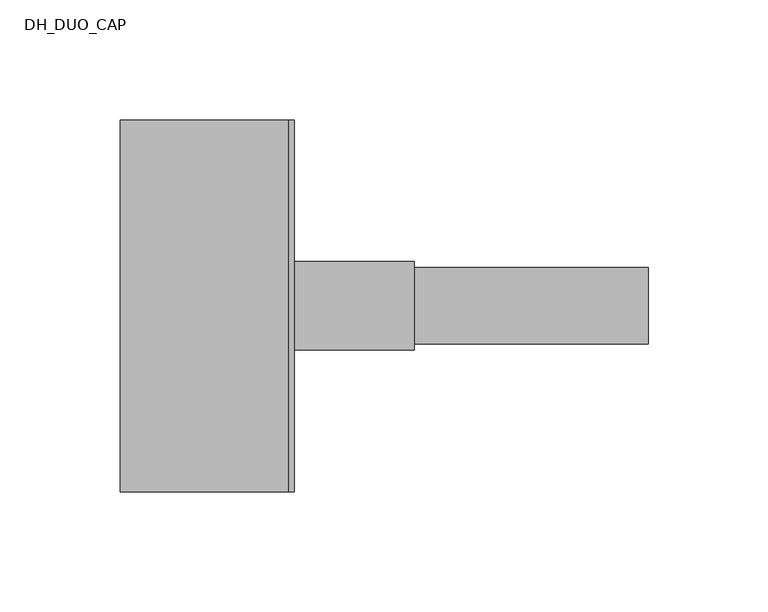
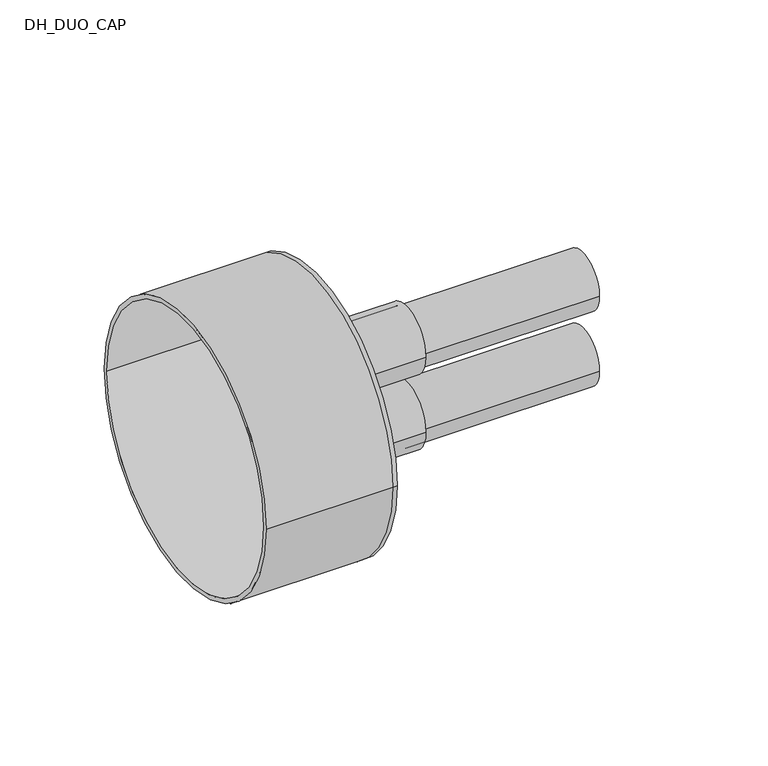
"""IFC4 building model written with IfcOpenShell, lengths in millimetres: pipe fitting geometry, DH_DUO_CAP : RAUVITHERM DUO 11 Heating - Rubber Cap."""

import ifcopenshell
import ifcopenshell.guid

model = None  # the IFC model being written
_history = None  # IfcOwnerHistory: only IFC2X3 demands one
_inside = {}  # id of a spatial element -> (the spatial element, [elements in it])
_under = {}  # id of a project, library or spatial element -> (it, [spatial elements below it])
_declared = {}  # id of a project -> (the project, [libraries it declares])
_typed = {}  # id of a type object -> (the type object, [elements of that type])
_made_of = {}  # id of a material, layer set ... -> (it, [elements and type objects made of it])


def new_model(schema):
    """Start an empty IFC model of exactly this schema.

    Asked for "IFC4X3", IfcOpenShell would pick the latest addendum, in which some entities
    have other attributes; the version numbers below select the first issue.
    IFC2X3 requires an IfcOwnerHistory on every rooted entity: one is made here for all.
    """
    global model, _history
    if schema == "IFC4X3":
        model = ifcopenshell.file(schema_version=(4, 3, 0, 0))
    else:
        model = ifcopenshell.file(schema=schema)
    _inside.clear()
    _under.clear()
    _declared.clear()
    _typed.clear()
    _made_of.clear()
    _history = None
    if model.schema == "IFC2X3":
        org = make("IfcOrganization", Name="unknown")
        user = make(
            "IfcPersonAndOrganization",
            ThePerson=make("IfcPerson", FamilyName="unknown"),
            TheOrganization=org,
        )
        app = make(
            "IfcApplication",
            ApplicationDeveloper=org,
            Version="unknown",
            ApplicationFullName="unknown",
            ApplicationIdentifier="unknown",
        )
        _history = make(
            "IfcOwnerHistory",
            OwningUser=user,
            OwningApplication=app,
            ChangeAction="ADDED",
            CreationDate=0,
        )
    return model


def make(cls, **values):
    """One entity of the class cls with the attributes given. An attribute that is None is left unset."""
    return model.create_entity(
        cls, **{name: value for name, value in values.items() if value is not None}
    )


def rooted(cls, **values):
    """An entity with a GlobalId (a new one), such as an element, a storey or a relation."""
    return make(cls, GlobalId=ifcopenshell.guid.new(), OwnerHistory=_history, **values)


def si_unit(unit_type, name, prefix=None):
    """IfcSIUnit, for example si_unit("LENGTHUNIT", "METRE", prefix="MILLI")."""
    return make("IfcSIUnit", UnitType=unit_type, Prefix=prefix, Name=name)


def assignment(units):
    """IfcUnitAssignment: the units of a project."""
    return None if units is None else make("IfcUnitAssignment", Units=units)


def point(xyz):
    """IfcCartesianPoint."""
    return None if xyz is None else make("IfcCartesianPoint", Coordinates=xyz)


def direction(xyz):
    """IfcDirection."""
    return None if xyz is None else make("IfcDirection", DirectionRatios=xyz)


def frame(location, z_axis=None, x_axis=None):
    """IfcAxis2Placement3D, a coordinate frame: its origin and axes. An axis left out is left unset."""
    return make(
        "IfcAxis2Placement3D",
        Location=point(location),
        Axis=direction(z_axis),
        RefDirection=direction(x_axis),
    )


def frame_2d(location, x_axis=None):
    """IfcAxis2Placement2D, a coordinate frame in the plane: its origin and x axis."""
    return make(
        "IfcAxis2Placement2D", Location=point(location), RefDirection=direction(x_axis)
    )


def origin():
    """The frame at (0, 0, 0) with its axes left unset."""
    return frame((0.0, 0.0, 0.0))


def place(relative_to, where):
    """IfcLocalPlacement: puts the frame where relative to a parent placement (None: the world)."""
    return make(
        "IfcLocalPlacement", PlacementRelTo=relative_to, RelativePlacement=where
    )


def context(
    kind, dimensions, precision=None, world=None, true_north=None, identifier=None
):
    """IfcGeometricRepresentationContext, for example the 3D "Model" context."""
    return make(
        "IfcGeometricRepresentationContext",
        ContextIdentifier=identifier,
        ContextType=kind,
        CoordinateSpaceDimension=dimensions,
        Precision=precision,
        WorldCoordinateSystem=world,
        TrueNorth=true_north,
    )


def project(units=None, contexts=None):
    """IfcProject with its units and contexts."""
    return rooted(
        "IfcProject",
        Name="project",
        RepresentationContexts=contexts,
        UnitsInContext=assignment(units),
    )


def spatial(cls, under=None, at=None, **own):
    """A site, building, storey or space (cls), placed at a placement, below another one or the project."""
    s = rooted(cls, ObjectPlacement=at, **own)
    if under is not None:
        _under.setdefault(under.id(), (under, []))[1].append(s)
    return s


def polyline(points):
    """IfcPolyline through the points."""
    return make("IfcPolyline", Points=[point(p) for p in points])


def circle_curve(where, radius):
    """IfcCircle in the frame where."""
    return make("IfcCircle", Position=where, Radius=radius)


def trimmed(basis, trim1, trim2, sense, master):
    """IfcTrimmedCurve: the piece of a basis curve between two trims."""
    return make(
        "IfcTrimmedCurve",
        BasisCurve=basis,
        Trim1=trim1,
        Trim2=trim2,
        SenseAgreement=sense,
        MasterRepresentation=master,
    )


def segment(curve, same_sense, transition):
    """IfcCompositeCurveSegment."""
    return make(
        "IfcCompositeCurveSegment",
        Transition=transition,
        SameSense=same_sense,
        ParentCurve=curve,
    )


def composite_curve(segments, self_intersect=None):
    """IfcCompositeCurve: segments joined end to end."""
    return make("IfcCompositeCurve", Segments=segments, SelfIntersect=self_intersect)


def outline(outer, holes=None, kind="AREA"):
    """IfcArbitraryClosedProfileDef: a profile drawn as a closed curve; with holes, ...WithVoids."""
    if holes is None:
        return make("IfcArbitraryClosedProfileDef", ProfileType=kind, OuterCurve=outer)
    return make(
        "IfcArbitraryProfileDefWithVoids",
        ProfileType=kind,
        OuterCurve=outer,
        InnerCurves=holes,
    )


def extrude(swept, where, along, depth):
    """IfcExtrudedAreaSolid: the profile swept, set in the frame where, extruded along a direction by depth."""
    return make(
        "IfcExtrudedAreaSolid",
        SweptArea=swept,
        Position=where,
        ExtrudedDirection=direction(along),
        Depth=depth,
    )


def shape(context_of_items, identifier, shape_type, items):
    """IfcShapeRepresentation: the items that make up one representation, for example the "Body"."""
    return make(
        "IfcShapeRepresentation",
        ContextOfItems=context_of_items,
        RepresentationIdentifier=identifier,
        RepresentationType=shape_type,
        Items=items,
    )


def source(mapping_origin, context_of_items, identifier, shape_type, items):
    """IfcRepresentationMap: a shape defined once, which mapped items show again and again."""
    return make(
        "IfcRepresentationMap",
        MappingOrigin=mapping_origin,
        MappedRepresentation=shape(context_of_items, identifier, shape_type, items),
    )


def transform(
    local_origin,
    x_axis=None,
    y_axis=None,
    z_axis=None,
    scale=None,
    scale2=None,
    scale3=None,
    uniform=True,
):
    """IfcCartesianTransformationOperator3D, or its non-uniform kind. x_axis, y_axis, z_axis: its Axis1, 2, 3."""
    if uniform:
        return make(
            "IfcCartesianTransformationOperator3D",
            Axis1=direction(x_axis),
            Axis2=direction(y_axis),
            LocalOrigin=point(local_origin),
            Scale=scale,
            Axis3=direction(z_axis),
        )
    return make(
        "IfcCartesianTransformationOperator3DnonUniform",
        Axis1=direction(x_axis),
        Axis2=direction(y_axis),
        LocalOrigin=point(local_origin),
        Scale=scale,
        Axis3=direction(z_axis),
        Scale2=scale2,
        Scale3=scale3,
    )


def mapped(mapping_source, mapping_target):
    """IfcMappedItem: shows the shape of a source again, moved by a transform."""
    return make(
        "IfcMappedItem", MappingSource=mapping_source, MappingTarget=mapping_target
    )


def made_of(thing, what):
    """Note that an element or type object is made of a material, layer set ...; save() writes the relation."""
    if what is not None:
        _made_of.setdefault(what.id(), (what, []))[1].append(thing)
    return thing


def element(
    cls,
    number,
    at=None,
    inside=None,
    cuts=None,
    type_object=None,
    material=None,
    context=None,
    identifier="Body",
    shape_type=None,
    held_by="IfcProductDefinitionShape",
    body=None,
    shapes=None,
    **own,
):
    """One element of the class cls, such as IfcWall. Its Tag is "e" and its number.

    at: its placement. inside: the storey or other place that contains it. cuts: it is an
    opening in that element (IfcRelVoidsElement). A single representation is given by context,
    identifier, shape_type and body (its items); several are given by shapes. held_by: the class
    of the entity that holds the representations. save() writes the other relations.
    """
    e = rooted(cls, Tag="e%d" % number, ObjectPlacement=at, **own)
    if body is not None:
        shapes = [shape(context, identifier, shape_type, body)]
    if shapes is not None:
        e.Representation = make(held_by, Representations=shapes)
    if inside is not None:
        _inside.setdefault(inside.id(), (inside, []))[1].append(e)
    if cuts is not None:
        rooted(
            "IfcRelVoidsElement", RelatingBuildingElement=cuts, RelatedOpeningElement=e
        )
    if type_object is not None:
        _typed.setdefault(type_object.id(), (type_object, []))[1].append(e)
    return made_of(e, material)


def aggregate(whole, parts):
    """IfcRelAggregates: a whole, such as a stair, and the parts it consists of."""
    return rooted("IfcRelAggregates", RelatingObject=whole, RelatedObjects=parts)


def save(model, path):
    """Write the relations noted so far, then the file.

    IfcRelAggregates (storeys below a building ...), IfcRelContainedInSpatialStructure (elements
    in a storey), IfcRelDefinesByType, IfcRelAssociatesMaterial and IfcRelDeclares: one each for
    every whole, place, type object, material and project.
    """
    for whole, parts in _under.values():
        aggregate(whole, parts)
    for where, things in _inside.values():
        rooted(
            "IfcRelContainedInSpatialStructure",
            RelatedElements=things,
            RelatingStructure=where,
        )
    for kind, things in _typed.values():
        rooted("IfcRelDefinesByType", RelatedObjects=things, RelatingType=kind)
    for what, things in _made_of.values():
        rooted("IfcRelAssociatesMaterial", RelatedObjects=things, RelatingMaterial=what)
    for by, libraries in _declared.values():
        rooted("IfcRelDeclares", RelatingContext=by, RelatedDefinitions=libraries)
    model.write(path)


def plane_surface(at):
    """IfcPlane: the flat surface through the origin of the frame at, square to its z axis."""
    return make("IfcPlane", Position=at)


def cylinder_surface(at, radius):
    """IfcCylindricalSurface: all points at the distance radius from the z axis of the frame at."""
    return make("IfcCylindricalSurface", Position=at, Radius=radius)


def revolved_surface(curve, axis_point, axis_direction):
    """IfcSurfaceOfRevolution: the curve turned about the line through axis_point along axis_direction."""
    return make(
        "IfcSurfaceOfRevolution",
        SweptCurve=make("IfcArbitraryOpenProfileDef", ProfileType="CURVE", Curve=curve),
        AxisPosition=make("IfcAxis1Placement", Location=point(axis_point), Axis=direction(axis_direction)),
    )


def advanced_brep(points, edges, surfaces, faces):
    """IfcAdvancedBrep: a solid bounded by faces that lie on surfaces and meet in shared edges.

    An edge is (start, end): straight between two places in points (the first is 0);
    or (start, end, curve); or (start, end, curve, False) where it runs against its curve.
    A face is (place in surfaces, loops), or (place, loops, False) where it looks against
    its surface's normal. A loop lists edges by number (the first is 1), with a minus sign
    where the edge is run from its end to its start. The first loop is the outer one.
    """
    corners = [point(p) for p in points]
    vertices = [make("IfcVertexPoint", VertexGeometry=c) for c in corners]
    made = []
    for start, end, *more in edges:
        made.append(
            make(
                "IfcEdgeCurve",
                EdgeStart=vertices[start],
                EdgeEnd=vertices[end],
                EdgeGeometry=more[0] if more else make("IfcPolyline", Points=[corners[start], corners[end]]),
                SameSense=more[1] if len(more) > 1 else True,
            )
        )
    hull = []
    for where, loops, *sense in faces:
        bounds = []
        for j, loop in enumerate(loops):
            ring = [make("IfcOrientedEdge", EdgeElement=made[abs(k) - 1], Orientation=k > 0) for k in loop]
            bounds.append(
                make(
                    "IfcFaceOuterBound" if j == 0 else "IfcFaceBound",
                    Bound=make("IfcEdgeLoop", EdgeList=ring),
                    Orientation=True,
                )
            )
        hull.append(make("IfcAdvancedFace", Bounds=bounds, FaceSurface=surfaces[where], SameSense=sense[0] if sense else True))
    return make("IfcAdvancedBrep", Outer=make("IfcClosedShell", CfsFaces=hull))


def dh_duo_cap_b7e61209(model_context):
    return source(origin(), model_context, "Body", "SolidModel", [
        extrude(outline(composite_curve([segment(trimmed(circle_curve(frame_2d((0.0, -22.0)), 16.0), [point((-16.0, -22.0))], [point((16.0, -22.0))], False, "CARTESIAN"), True, "CONTINUOUS"), segment(trimmed(circle_curve(frame_2d((0.0, -22.0)), 16.0), [point((16.0, -22.0))], [point((-16.0, -22.0))], False, "CARTESIAN"), True, "CONTINUOUS")], self_intersect=False), holes=[composite_curve([segment(trimmed(circle_curve(frame_2d((0.0, -22.0)), 13.1), [point((-13.1, -22.0))], [point((13.1, -22.0))], True, "CARTESIAN"), True, "CONTINUOUS"), segment(trimmed(circle_curve(frame_2d((0.0, -22.0)), 13.1), [point((13.1, -22.0))], [point((-13.1, -22.0))], True, "CARTESIAN"), True, "CONTINUOUS")], self_intersect=False)]), frame((0.0, 0.0, 0.0), z_axis=(1.0, 0.0, 0.0), x_axis=(0.0, 1.0, 0.0)), (0.0, 0.0, 1.0), 150.0),
        extrude(outline(composite_curve([segment(trimmed(circle_curve(frame_2d((0.0, 22.0)), 16.0), [point((-16.0, 22.0))], [point((16.0, 22.0))], False, "CARTESIAN"), True, "CONTINUOUS"), segment(trimmed(circle_curve(frame_2d((0.0, 22.0)), 16.0), [point((16.0, 22.0))], [point((-16.0, 22.0))], False, "CARTESIAN"), True, "CONTINUOUS")], self_intersect=False), holes=[composite_curve([segment(trimmed(circle_curve(frame_2d((0.0, 22.0)), 13.1), [point((-13.1, 22.0))], [point((13.1, 22.0))], True, "CARTESIAN"), True, "CONTINUOUS"), segment(trimmed(circle_curve(frame_2d((0.0, 22.0)), 13.1), [point((13.1, 22.0))], [point((-13.1, 22.0))], True, "CARTESIAN"), True, "CONTINUOUS")], self_intersect=False)]), frame((0.0, 0.0, 0.0), z_axis=(1.0, 0.0, 0.0), x_axis=(0.0, 1.0, 0.0)), (0.0, 0.0, 1.0), 150.0),
        advanced_brep(
        [(-70.0, -77.5, 0.0), (-70.0, 77.5, 0.0), (-70.0, -75.0, 0.0), (-70.0, 75.0, 0.0), (0.0, -75.0, 0.0), (0.0, 75.0, 0.0), (0.0, -77.5, 0.0), (0.0, 77.5, 0.0), (0.0, 16.0, 22.0), (0.0, -16.0, 22.0), (0.0, 16.0, -22.0), (0.0, -16.0, -22.0), (2.5, -77.5, 0.0), (2.5, 77.5, 0.0), (2.5, -16.0, 22.0), (2.5, 16.0, 22.0), (2.5, -16.0, -22.0), (2.5, 16.0, -22.0)],
        [
            (0, 1, circle_curve(frame((-70.0, 0.0, 0.0), z_axis=(-1.0, 0.0, 0.0), x_axis=(0.0, 1.0, 0.0)), 77.5)),
            (1, 0, circle_curve(frame((-70.0, 0.0, 0.0), z_axis=(-1.0, 0.0, 0.0), x_axis=(0.0, 1.0, 0.0)), 77.5)),
            (2, 3, circle_curve(frame((-70.0, 0.0, 0.0), z_axis=(1.0, 0.0, 0.0), x_axis=(0.0, 1.0, 0.0)), 75.0)),
            (3, 2, circle_curve(frame((-70.0, 0.0, 0.0), z_axis=(1.0, 0.0, 0.0), x_axis=(0.0, 1.0, 0.0)), 75.0)),
            (2, 4),
            (4, 5, circle_curve(frame((0.0, 0.0, 0.0), z_axis=(1.0, 0.0, 0.0), x_axis=(0.0, 1.0, 0.0)), 75.0)),
            (5, 3),
            (5, 4, circle_curve(frame((0.0, 0.0, 0.0), z_axis=(1.0, 0.0, 0.0), x_axis=(0.0, 1.0, 0.0)), 75.0)),
            (0, 6),
            (6, 7, circle_curve(frame((0.0, 0.0, 0.0), z_axis=(-1.0, 0.0, 0.0), x_axis=(0.0, 1.0, 0.0)), 77.5)),
            (7, 1),
            (7, 6, circle_curve(frame((0.0, 0.0, 0.0), z_axis=(-1.0, 0.0, 0.0), x_axis=(0.0, 1.0, 0.0)), 77.5)),
            (8, 9, circle_curve(frame((0.0, 0.0, 22.0), z_axis=(1.0, 0.0, 0.0), x_axis=(0.0, 1.0, 0.0)), 16.0)),
            (9, 8, circle_curve(frame((0.0, 0.0, 22.0), z_axis=(1.0, 0.0, 0.0), x_axis=(0.0, 1.0, 0.0)), 16.0)),
            (10, 11, circle_curve(frame((0.0, 0.0, -22.0), z_axis=(1.0, 0.0, 0.0), x_axis=(0.0, 1.0, 0.0)), 16.0)),
            (11, 10, circle_curve(frame((0.0, 0.0, -22.0), z_axis=(1.0, 0.0, 0.0), x_axis=(0.0, 1.0, 0.0)), 16.0)),
            (12, 13, circle_curve(frame((2.5, 0.0, 0.0), z_axis=(1.0, 0.0, 0.0), x_axis=(0.0, 1.0, 0.0)), 77.5)),
            (13, 12, circle_curve(frame((2.5, 0.0, 0.0), z_axis=(1.0, 0.0, 0.0), x_axis=(0.0, 1.0, 0.0)), 77.5)),
            (14, 15, circle_curve(frame((2.5, 0.0, 22.0), z_axis=(-1.0, 0.0, 0.0), x_axis=(0.0, 1.0, 0.0)), 16.0)),
            (15, 14, circle_curve(frame((2.5, 0.0, 22.0), z_axis=(-1.0, 0.0, 0.0), x_axis=(0.0, 1.0, 0.0)), 16.0)),
            (16, 17, circle_curve(frame((2.5, 0.0, -22.0), z_axis=(-1.0, 0.0, 0.0), x_axis=(0.0, 1.0, 0.0)), 16.0)),
            (17, 16, circle_curve(frame((2.5, 0.0, -22.0), z_axis=(-1.0, 0.0, 0.0), x_axis=(0.0, 1.0, 0.0)), 16.0)),
            (13, 7),
            (6, 12),
            (8, 15),
            (14, 9),
            (10, 17),
            (16, 11),
        ],
        [
            plane_surface(frame((-70.0, 0.0, 0.0), z_axis=(-1.0, 0.0, 0.0), x_axis=(0.0, 0.0, 1.0))),
            revolved_surface(polyline([(0.0, 75.0, 0.0), (-70.0, 75.0, 0.0)]), (-70.0, 0.0, 0.0), (1.0, 0.0, 0.0)),
            cylinder_surface(frame((-70.0, 0.0, 0.0), z_axis=(-1.0, 0.0, 0.0), x_axis=(0.0, 1.0, 0.0)), 77.5),
            plane_surface(frame((0.0, 0.0, 0.0), z_axis=(-1.0, 0.0, 0.0), x_axis=(0.0, 0.0, 1.0))),
            plane_surface(frame((2.5, 0.0, 0.0), z_axis=(1.0, 0.0, 0.0), x_axis=(0.0, 0.0, 1.0))),
            cylinder_surface(frame((0.0, 0.0, 0.0), z_axis=(-1.0, 0.0, 0.0), x_axis=(0.0, 1.0, 0.0)), 77.5),
            revolved_surface(polyline([(0.0, 16.0, 22.0), (2.5, 16.0, 22.0)]), (0.0, 0.0, 22.0), (-1.0, 0.0, 0.0)),
            revolved_surface(polyline([(0.0, 16.0, -22.0), (2.5, 16.0, -22.0)]), (0.0, 0.0, -22.0), (-1.0, 0.0, 0.0)),
        ],
        [
            (0, [[1, 2], [3, 4]]),
            (1, [[-3, 5, 6, 7]]),
            (1, [[-4, -7, 8, -5]]),
            (2, [[-1, 9, 10, 11]]),
            (2, [[-2, -11, 12, -9]]),
            (3, [[-6, -8], [13, 14], [15, 16]]),
            (4, [[17, 18], [19, 20], [21, 22]]),
            (5, [[-18, 23, -10, 24]]),
            (5, [[-17, -24, -12, -23]]),
            (6, [[25, -19, 26, -13]]),
            (6, [[-25, -14, -26, -20]]),
            (7, [[27, -21, 28, -15]]),
            (7, [[-27, -16, -28, -22]]),
        ],
    ),
        extrude(outline(composite_curve([segment(trimmed(circle_curve(frame_2d((0.0, -22.0)), 18.5), [point((-18.5, -22.0))], [point((18.5, -22.0))], False, "CARTESIAN"), True, "CONTINUOUS"), segment(trimmed(circle_curve(frame_2d((0.0, -22.0)), 18.5), [point((18.5, -22.0))], [point((-18.5, -22.0))], False, "CARTESIAN"), True, "CONTINUOUS")], self_intersect=False), holes=[composite_curve([segment(trimmed(circle_curve(frame_2d((0.0, -22.0)), 16.0), [point((-16.0, -22.0))], [point((16.0, -22.0))], True, "CARTESIAN"), True, "CONTINUOUS"), segment(trimmed(circle_curve(frame_2d((0.0, -22.0)), 16.0), [point((16.0, -22.0))], [point((-16.0, -22.0))], True, "CARTESIAN"), True, "CONTINUOUS")], self_intersect=False)]), frame((2.5, 0.0, 0.0), z_axis=(1.0, 0.0, 0.0), x_axis=(0.0, 1.0, 0.0)), (0.0, 0.0, 1.0), 50.0),
        extrude(outline(composite_curve([segment(trimmed(circle_curve(frame_2d((0.0, 22.0)), 18.5), [point((-18.5, 22.0))], [point((18.5, 22.0))], False, "CARTESIAN"), True, "CONTINUOUS"), segment(trimmed(circle_curve(frame_2d((0.0, 22.0)), 18.5), [point((18.5, 22.0))], [point((-18.5, 22.0))], False, "CARTESIAN"), True, "CONTINUOUS")], self_intersect=False), holes=[composite_curve([segment(trimmed(circle_curve(frame_2d((0.0, 22.0)), 16.0), [point((-16.0, 22.0))], [point((16.0, 22.0))], True, "CARTESIAN"), True, "CONTINUOUS"), segment(trimmed(circle_curve(frame_2d((0.0, 22.0)), 16.0), [point((16.0, 22.0))], [point((-16.0, 22.0))], True, "CARTESIAN"), True, "CONTINUOUS")], self_intersect=False)]), frame((2.5, 0.0, 0.0), z_axis=(1.0, 0.0, 0.0), x_axis=(0.0, 1.0, 0.0)), (0.0, 0.0, 1.0), 50.0),
    ])


if __name__ == "__main__":
    model = new_model("IFC4")
    model_context = context("Model", 3, world=origin())
    ifc_project = project(units=[si_unit("LENGTHUNIT", "METRE", prefix="MILLI")], contexts=[model_context])
    site = spatial("IfcSite", under=ifc_project)
    building = spatial("IfcBuilding", under=site)
    placement = place(None, origin())
    dh_duo_cap_shape = dh_duo_cap_b7e61209(model_context)
    element("IfcPipeFitting", 1, ObjectType="DH_DUO_CAP : RAUVITHERM DUO 11 Heating - Rubber Cap", at=placement, inside=building, context=model_context, shape_type="MappedRepresentation", body=[
        mapped(dh_duo_cap_shape, transform((0.0, 0.0, 0.0), x_axis=(1.0, 0.0, 0.0), y_axis=(0.0, 1.0, 0.0), z_axis=(0.0, 0.0, 1.0))),
    ])
    save(model, "model.ifc")
